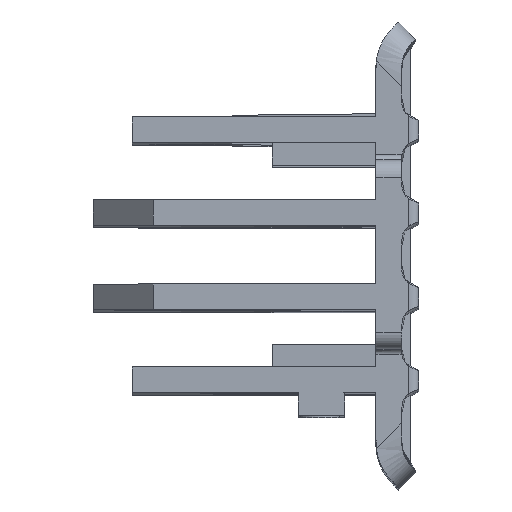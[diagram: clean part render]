
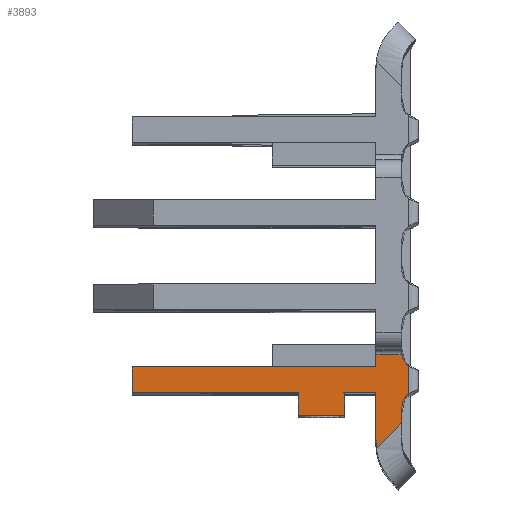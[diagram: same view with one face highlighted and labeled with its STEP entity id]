
A CAD part, top view. The second image highlights one B-rep face of the part: STEP entity #3893.
In plain terms, the highlighted planar face has unit normal (0, 0, 1).
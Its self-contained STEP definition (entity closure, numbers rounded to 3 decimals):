
#13 = DIRECTION ( 'NONE',  ( 1., 0., 0. ) ) ;
#24 = CARTESIAN_POINT ( 'NONE',  ( -60.002, 22.5, 39. ) ) ;
#135 = DIRECTION ( 'NONE',  ( -0.7, -0.714, 0. ) ) ;
#213 = CARTESIAN_POINT ( 'NONE',  ( 59.517, 3.899, 39. ) ) ;
#331 = EDGE_CURVE ( 'NONE', #6167, #7164, #6112, .T. ) ;
#425 = VERTEX_POINT ( 'NONE', #3500 ) ;
#532 = EDGE_CURVE ( 'NONE', #425, #1051, #3126, .T. ) ;
#571 = ORIENTED_EDGE ( 'NONE', *, *, #2983, .F. ) ;
#681 = CARTESIAN_POINT ( 'NONE',  ( 61.4, 8.565, 39. ) ) ;
#941 = CARTESIAN_POINT ( 'NONE',  ( 61.15, 6.712, 39. ) ) ;
#964 = LINE ( 'NONE', #5790, #1370 ) ;
#1004 = EDGE_CURVE ( 'NONE', #7007, #3299, #6268, .T. ) ;
#1051 = VERTEX_POINT ( 'NONE', #7534 ) ;
#1111 = CARTESIAN_POINT ( 'NONE',  ( 45.398, 8.5, 39. ) ) ;
#1138 = B_SPLINE_CURVE_WITH_KNOTS ( 'NONE', 3,
 ( #2213, #213, #2855, #5335, #3415 ),
 .UNSPECIFIED., .F., .F.,
 ( 4, 1, 4 ),
 ( 0., 0.379, 1. ),
 .UNSPECIFIED. ) ;
#1299 = CARTESIAN_POINT ( 'NONE',  ( 61.327, 8.619, 39. ) ) ;
#1365 = ORIENTED_EDGE ( 'NONE', *, *, #5298, .F. ) ;
#1370 = VECTOR ( 'NONE', #7092, 1000. ) ;
#1372 = CARTESIAN_POINT ( 'NONE',  ( 61.15, 8.788, 39. ) ) ;
#1464 = CARTESIAN_POINT ( 'NONE',  ( 61.4, 6.935, 39. ) ) ;
#1513 = CARTESIAN_POINT ( 'NONE',  ( 57.7, 7., 39. ) ) ;
#1652 = DIRECTION ( 'NONE',  ( 0., 1., 0. ) ) ;
#1653 = VECTOR ( 'NONE', #1652, 1000. ) ;
#1688 = CARTESIAN_POINT ( 'NONE',  ( 59.534, 3.76, 39. ) ) ;
#1694 = LINE ( 'NONE', #2299, #1653 ) ;
#1713 = CARTESIAN_POINT ( 'NONE',  ( 61., 5.256, 39. ) ) ;
#1779 = VECTOR ( 'NONE', #7645, 1000. ) ;
#1799 = EDGE_CURVE ( 'NONE', #6291, #3067, #5991, .T. ) ;
#1807 = ORIENTED_EDGE ( 'NONE', *, *, #5059, .T. ) ;
#1835 = CARTESIAN_POINT ( 'NONE',  ( 45.398, 7., 39. ) ) ;
#1887 = LINE ( 'NONE', #4397, #4359 ) ;
#1907 = CARTESIAN_POINT ( 'NONE',  ( 61., 5.256, 39. ) ) ;
#2100 = ORIENTED_EDGE ( 'NONE', *, *, #4943, .T. ) ;
#2184 = DIRECTION ( 'NONE',  ( 0., -1., 0. ) ) ;
#2213 = CARTESIAN_POINT ( 'NONE',  ( 59.534, 3.76, 39. ) ) ;
#2284 = VECTOR ( 'NONE', #135, 1000. ) ;
#2299 = CARTESIAN_POINT ( 'NONE',  ( 59.5, 4.5, 39. ) ) ;
#2369 = CARTESIAN_POINT ( 'NONE',  ( 59.5, 9.2, 39. ) ) ;
#2393 = CARTESIAN_POINT ( 'NONE',  ( 59.5, 4.5, 39. ) ) ;
#2399 = CARTESIAN_POINT ( 'NONE',  ( 59.5, 8.5, 39. ) ) ;
#2443 = DIRECTION ( 'NONE',  ( -1., 0., 0. ) ) ;
#2473 = ORIENTED_EDGE ( 'NONE', *, *, #5895, .T. ) ;
#2661 = CARTESIAN_POINT ( 'NONE',  ( 59.5, 7., 39. ) ) ;
#2781 = CARTESIAN_POINT ( 'NONE',  ( 55.022, 7., 39. ) ) ;
#2797 = LINE ( 'NONE', #4460, #3599 ) ;
#2799 = CARTESIAN_POINT ( 'NONE',  ( 57.7, 7., 39. ) ) ;
#2855 = CARTESIAN_POINT ( 'NONE',  ( 59.497, 4.226, 39. ) ) ;
#2928 = CARTESIAN_POINT ( 'NONE',  ( 57.7, 7., 39. ) ) ;
#2946 = VECTOR ( 'NONE', #4973, 1000. ) ;
#2983 = EDGE_CURVE ( 'NONE', #4562, #6291, #964, .T. ) ;
#3067 = VERTEX_POINT ( 'NONE', #7220 ) ;
#3088 = ORIENTED_EDGE ( 'NONE', *, *, #6236, .F. ) ;
#3103 = FACE_OUTER_BOUND ( 'NONE', #4129, .T. ) ;
#3126 = LINE ( 'NONE', #6833, #4428 ) ;
#3256 = VECTOR ( 'NONE', #7899, 1000. ) ;
#3278 = LINE ( 'NONE', #2799, #5143 ) ;
#3299 = VERTEX_POINT ( 'NONE', #1688 ) ;
#3362 = DIRECTION ( 'NONE',  ( 1., 0., 0. ) ) ;
#3415 = CARTESIAN_POINT ( 'NONE',  ( 59.5, 4.5, 39. ) ) ;
#3423 = CARTESIAN_POINT ( 'NONE',  ( 61., 5.858, 39. ) ) ;
#3500 = CARTESIAN_POINT ( 'NONE',  ( 55.022, 5.7, 39. ) ) ;
#3535 = VERTEX_POINT ( 'NONE', #3817 ) ;
#3599 = VECTOR ( 'NONE', #4020, 1000. ) ;
#3720 = CARTESIAN_POINT ( 'NONE',  ( 45.398, 8.5, 39. ) ) ;
#3792 = CARTESIAN_POINT ( 'NONE',  ( 61.4, 8.565, 39. ) ) ;
#3817 = CARTESIAN_POINT ( 'NONE',  ( 55.022, 7., 39. ) ) ;
#3821 = CARTESIAN_POINT ( 'NONE',  ( 61., 5.256, 39. ) ) ;
#3893 = ADVANCED_FACE ( 'NONE', ( #3103 ), #7459, .T. ) ;
#3918 = ORIENTED_EDGE ( 'NONE', *, *, #4254, .T. ) ;
#4020 = DIRECTION ( 'NONE',  ( -1., 0., 0. ) ) ;
#4066 = ORIENTED_EDGE ( 'NONE', *, *, #331, .T. ) ;
#4129 = EDGE_LOOP ( 'NONE', ( #1365, #6657, #5371, #7458, #7407, #2100, #4853, #3088, #5211, #571, #3918, #2473, #4066, #6774, #1807, #7654 ) ) ;
#4244 = AXIS2_PLACEMENT_3D ( 'NONE', #24, #6772, #4934 ) ;
#4254 = EDGE_CURVE ( 'NONE', #4562, #7302, #1887, .T. ) ;
#4359 = VECTOR ( 'NONE', #6879, 1000. ) ;
#4397 = CARTESIAN_POINT ( 'NONE',  ( 59.5, 9.2, 39. ) ) ;
#4428 = VECTOR ( 'NONE', #13, 1000. ) ;
#4460 = CARTESIAN_POINT ( 'NONE',  ( 55.022, 7., 39. ) ) ;
#4485 = LINE ( 'NONE', #1907, #6312 ) ;
#4562 = VERTEX_POINT ( 'NONE', #2369 ) ;
#4565 = LINE ( 'NONE', #2781, #8010 ) ;
#4853 = ORIENTED_EDGE ( 'NONE', *, *, #7950, .F. ) ;
#4934 = DIRECTION ( 'NONE',  ( 1., 0., 0. ) ) ;
#4943 = EDGE_CURVE ( 'NONE', #7007, #6285, #4485, .T. ) ;
#4973 = DIRECTION ( 'NONE',  ( 0., -1., 0. ) ) ;
#5025 = CARTESIAN_POINT ( 'NONE',  ( 61.058, 9.031, 39. ) ) ;
#5059 = EDGE_CURVE ( 'NONE', #3535, #425, #4565, .T. ) ;
#5127 = LINE ( 'NONE', #3792, #2946 ) ;
#5143 = VECTOR ( 'NONE', #3362, 1000. ) ;
#5211 = ORIENTED_EDGE ( 'NONE', *, *, #1799, .F. ) ;
#5281 = CARTESIAN_POINT ( 'NONE',  ( 61.327, 6.881, 39. ) ) ;
#5298 = EDGE_CURVE ( 'NONE', #5440, #1051, #6888, .T. ) ;
#5335 = CARTESIAN_POINT ( 'NONE',  ( 59.5, 4.433, 39. ) ) ;
#5341 = CARTESIAN_POINT ( 'NONE',  ( 61.027, 9.2, 39. ) ) ;
#5371 = ORIENTED_EDGE ( 'NONE', *, *, #6373, .F. ) ;
#5440 = VERTEX_POINT ( 'NONE', #2928 ) ;
#5790 = CARTESIAN_POINT ( 'NONE',  ( 59.5, 9.2, 39. ) ) ;
#5886 = CARTESIAN_POINT ( 'NONE',  ( 61., 5.858, 39. ) ) ;
#5895 = EDGE_CURVE ( 'NONE', #7302, #6167, #7928, .T. ) ;
#5920 = VERTEX_POINT ( 'NONE', #6210 ) ;
#5963 = B_SPLINE_CURVE_WITH_KNOTS ( 'NONE', 3,
 ( #1464, #5281, #941, #6542, #7637, #5886 ),
 .UNSPECIFIED., .F., .F.,
 ( 4, 1, 1, 4 ),
 ( 0., 0.227, 0.613, 1. ),
 .UNSPECIFIED. ) ;
#5991 = B_SPLINE_CURVE_WITH_KNOTS ( 'NONE', 3,
 ( #6865, #6212, #5025, #1372, #1299, #681 ),
 .UNSPECIFIED., .F., .F.,
 ( 4, 1, 1, 4 ),
 ( 0., 0.03, 0.641, 1. ),
 .UNSPECIFIED. ) ;
#5993 = VERTEX_POINT ( 'NONE', #2661 ) ;
#6112 = LINE ( 'NONE', #1111, #3256 ) ;
#6167 = VERTEX_POINT ( 'NONE', #3720 ) ;
#6210 = CARTESIAN_POINT ( 'NONE',  ( 61.4, 6.935, 39. ) ) ;
#6212 = CARTESIAN_POINT ( 'NONE',  ( 61.029, 9.192, 39. ) ) ;
#6236 = EDGE_CURVE ( 'NONE', #3067, #5920, #5127, .T. ) ;
#6268 = LINE ( 'NONE', #3821, #2284 ) ;
#6285 = VERTEX_POINT ( 'NONE', #3423 ) ;
#6291 = VERTEX_POINT ( 'NONE', #5341 ) ;
#6312 = VECTOR ( 'NONE', #7013, 1000. ) ;
#6373 = EDGE_CURVE ( 'NONE', #7442, #5993, #1694, .T. ) ;
#6542 = CARTESIAN_POINT ( 'NONE',  ( 61.005, 6.328, 39. ) ) ;
#6657 = ORIENTED_EDGE ( 'NONE', *, *, #7940, .T. ) ;
#6695 = CARTESIAN_POINT ( 'NONE',  ( 59.5, 8.5, 39. ) ) ;
#6772 = DIRECTION ( 'NONE',  ( 0., 0., 1. ) ) ;
#6774 = ORIENTED_EDGE ( 'NONE', *, *, #6892, .F. ) ;
#6833 = CARTESIAN_POINT ( 'NONE',  ( 55.022, 5.7, 39. ) ) ;
#6865 = CARTESIAN_POINT ( 'NONE',  ( 61.027, 9.2, 39. ) ) ;
#6879 = DIRECTION ( 'NONE',  ( 0., -1., 0. ) ) ;
#6888 = LINE ( 'NONE', #1513, #1779 ) ;
#6892 = EDGE_CURVE ( 'NONE', #3535, #7164, #2797, .T. ) ;
#7007 = VERTEX_POINT ( 'NONE', #1713 ) ;
#7013 = DIRECTION ( 'NONE',  ( 0., 1., 0. ) ) ;
#7092 = DIRECTION ( 'NONE',  ( 1., 0., 0. ) ) ;
#7164 = VERTEX_POINT ( 'NONE', #1835 ) ;
#7220 = CARTESIAN_POINT ( 'NONE',  ( 61.4, 8.565, 39. ) ) ;
#7302 = VERTEX_POINT ( 'NONE', #6695 ) ;
#7361 = VECTOR ( 'NONE', #2443, 1000. ) ;
#7407 = ORIENTED_EDGE ( 'NONE', *, *, #1004, .F. ) ;
#7442 = VERTEX_POINT ( 'NONE', #2393 ) ;
#7458 = ORIENTED_EDGE ( 'NONE', *, *, #7536, .F. ) ;
#7459 = PLANE ( 'NONE',  #4244 ) ;
#7534 = CARTESIAN_POINT ( 'NONE',  ( 57.7, 5.7, 39. ) ) ;
#7536 = EDGE_CURVE ( 'NONE', #3299, #7442, #1138, .T. ) ;
#7637 = CARTESIAN_POINT ( 'NONE',  ( 61., 6.011, 39. ) ) ;
#7645 = DIRECTION ( 'NONE',  ( 0., -1., 0. ) ) ;
#7654 = ORIENTED_EDGE ( 'NONE', *, *, #532, .T. ) ;
#7899 = DIRECTION ( 'NONE',  ( 0., -1., 0. ) ) ;
#7928 = LINE ( 'NONE', #2399, #7361 ) ;
#7940 = EDGE_CURVE ( 'NONE', #5440, #5993, #3278, .T. ) ;
#7950 = EDGE_CURVE ( 'NONE', #5920, #6285, #5963, .T. ) ;
#8010 = VECTOR ( 'NONE', #2184, 1000. ) ;
